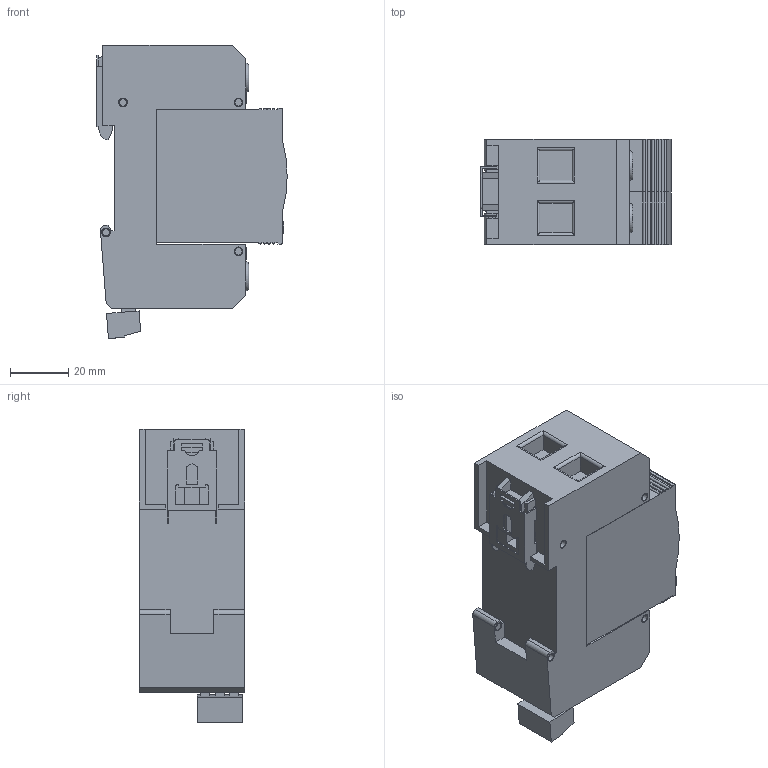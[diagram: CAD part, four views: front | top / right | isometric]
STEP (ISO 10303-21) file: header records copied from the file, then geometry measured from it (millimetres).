
FILE_DESCRIPTION(('TFLEX Exchange Step'),'2;1');
FILE_NAME('X2\041004400442\X0\.122.108.stp', '2022-08-30T14:06:26+03:00',('Ivan Berdigulov'),('Unknown organisation'),'TFLEX Exchange 2019.2','T-FLEX CAD','Unknown authorisation');
FILE_SCHEMA( ('AUTOMOTIVE_DESIGN { 1 0 10303 214 1 1 1 1 }') );
Length unit declared in the file: millimetre
Products named in the file (2): 0
Assembly tree (1 placements, depth 2):
  0
    0
Bounding box: 65.19 x 36 x 100.34 mm (x, y, z)
Volume: 169672 mm3; surface area: 39901.5 mm2
Topology: 31 solids, 31 shells, 525 faces, 1383 edges, 942 vertices
Faces by surface type: plane 355, cylinder 106, bspline 55, torus 6, cone 3
Full cylindrical faces by diameter (mm): 1.6 x3, 2.5 x13, 3 x16, 4 x3
Entity records: 16939 total; most frequent: CARTESIAN_POINT 4052, ORIENTED_EDGE 2702, DIRECTION 2406, EDGE_CURVE 1351, VERTEX_POINT 942, VECTOR 928, LINE 928, AXIS2_PLACEMENT_3D 739
